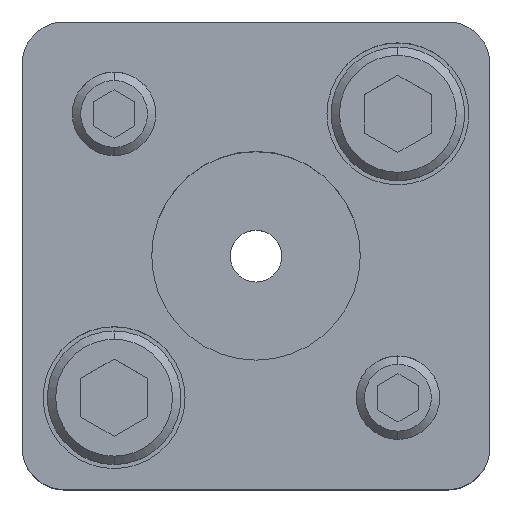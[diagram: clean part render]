
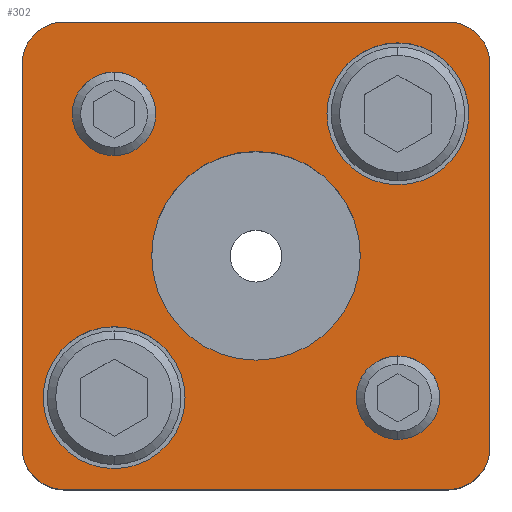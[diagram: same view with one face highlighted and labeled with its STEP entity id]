
A CAD part, top view. The second image highlights one B-rep face of the part: STEP entity #302.
In plain terms, the highlighted planar face has unit normal (0, 0, 1).
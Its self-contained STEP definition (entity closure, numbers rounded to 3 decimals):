
#165=FACE_BOUND('',#685,.T.);
#166=FACE_BOUND('',#686,.T.);
#167=FACE_BOUND('',#687,.T.);
#168=FACE_BOUND('',#688,.T.);
#169=FACE_BOUND('',#689,.T.);
#170=FACE_BOUND('',#690,.T.);
#211=PLANE('',#2792);
#302=ADVANCED_FACE('',(#165,#166,#167,#168,#169,#170),#211,.T.);
#685=EDGE_LOOP('',(#1147,#1148,#1149,#1150,#1151,#1152,#1153,#1154));
#686=EDGE_LOOP('',(#1155,#1156));
#687=EDGE_LOOP('',(#1157,#1158));
#688=EDGE_LOOP('',(#1159,#1160));
#689=EDGE_LOOP('',(#1161,#1162));
#690=EDGE_LOOP('',(#1163,#1164));
#877=CIRCLE('',#2768,8.5);
#879=CIRCLE('',#2771,8.5);
#881=CIRCLE('',#2775,8.5);
#883=CIRCLE('',#2778,8.5);
#885=CIRCLE('',#2782,5.);
#886=CIRCLE('',#2783,5.);
#887=CIRCLE('',#2784,5.);
#888=CIRCLE('',#2785,5.);
#889=CIRCLE('',#2786,5.);
#890=CIRCLE('',#2787,5.);
#891=CIRCLE('',#2788,5.);
#892=CIRCLE('',#2789,5.);
#893=CIRCLE('',#2790,12.5);
#894=CIRCLE('',#2791,12.5);
#1147=ORIENTED_EDGE('',*,*,#2031,.T.);
#1148=ORIENTED_EDGE('',*,*,#2032,.T.);
#1149=ORIENTED_EDGE('',*,*,#2033,.T.);
#1150=ORIENTED_EDGE('',*,*,#2034,.T.);
#1151=ORIENTED_EDGE('',*,*,#2035,.T.);
#1152=ORIENTED_EDGE('',*,*,#2036,.T.);
#1153=ORIENTED_EDGE('',*,*,#2037,.T.);
#1154=ORIENTED_EDGE('',*,*,#2038,.T.);
#1155=ORIENTED_EDGE('',*,*,#2039,.F.);
#1156=ORIENTED_EDGE('',*,*,#2040,.F.);
#1157=ORIENTED_EDGE('',*,*,#2041,.F.);
#1158=ORIENTED_EDGE('',*,*,#2042,.F.);
#1159=ORIENTED_EDGE('',*,*,#2029,.F.);
#1160=ORIENTED_EDGE('',*,*,#2025,.F.);
#1161=ORIENTED_EDGE('',*,*,#2023,.F.);
#1162=ORIENTED_EDGE('',*,*,#2019,.F.);
#1163=ORIENTED_EDGE('',*,*,#2043,.T.);
#1164=ORIENTED_EDGE('',*,*,#2044,.T.);
#1767=VERTEX_POINT('',#4005);
#1768=VERTEX_POINT('',#4006);
#1771=VERTEX_POINT('',#4018);
#1772=VERTEX_POINT('',#4019);
#1775=VERTEX_POINT('',#4031);
#1776=VERTEX_POINT('',#4032);
#1777=VERTEX_POINT('',#4034);
#1778=VERTEX_POINT('',#4036);
#1779=VERTEX_POINT('',#4038);
#1780=VERTEX_POINT('',#4040);
#1781=VERTEX_POINT('',#4042);
#1782=VERTEX_POINT('',#4044);
#1783=VERTEX_POINT('',#4047);
#1784=VERTEX_POINT('',#4048);
#1785=VERTEX_POINT('',#4051);
#1786=VERTEX_POINT('',#4052);
#1787=VERTEX_POINT('',#4055);
#1788=VERTEX_POINT('',#4056);
#2019=EDGE_CURVE('',#1767,#1768,#877,.T.);
#2023=EDGE_CURVE('',#1768,#1767,#879,.T.);
#2025=EDGE_CURVE('',#1771,#1772,#881,.T.);
#2029=EDGE_CURVE('',#1772,#1771,#883,.T.);
#2031=EDGE_CURVE('',#1775,#1776,#885,.T.);
#2032=EDGE_CURVE('',#1776,#1777,#2349,.T.);
#2033=EDGE_CURVE('',#1777,#1778,#886,.T.);
#2034=EDGE_CURVE('',#1778,#1779,#2350,.T.);
#2035=EDGE_CURVE('',#1779,#1780,#887,.T.);
#2036=EDGE_CURVE('',#1780,#1781,#2351,.T.);
#2037=EDGE_CURVE('',#1781,#1782,#888,.T.);
#2038=EDGE_CURVE('',#1782,#1775,#2352,.T.);
#2039=EDGE_CURVE('',#1783,#1784,#889,.T.);
#2040=EDGE_CURVE('',#1784,#1783,#890,.T.);
#2041=EDGE_CURVE('',#1785,#1786,#891,.T.);
#2042=EDGE_CURVE('',#1786,#1785,#892,.T.);
#2043=EDGE_CURVE('',#1787,#1788,#893,.T.);
#2044=EDGE_CURVE('',#1788,#1787,#894,.T.);
#2349=LINE('',#4033,#2545);
#2350=LINE('',#4037,#2546);
#2351=LINE('',#4041,#2547);
#2352=LINE('',#4045,#2548);
#2545=VECTOR('',#3215,1.);
#2546=VECTOR('',#3218,1.);
#2547=VECTOR('',#3221,1.);
#2548=VECTOR('',#3224,1.);
#2768=AXIS2_PLACEMENT_3D('',#4004,#3181,#3182);
#2771=AXIS2_PLACEMENT_3D('',#4013,#3189,#3190);
#2775=AXIS2_PLACEMENT_3D('',#4017,#3197,#3198);
#2778=AXIS2_PLACEMENT_3D('',#4026,#3205,#3206);
#2782=AXIS2_PLACEMENT_3D('',#4030,#3213,#3214);
#2783=AXIS2_PLACEMENT_3D('',#4035,#3216,#3217);
#2784=AXIS2_PLACEMENT_3D('',#4039,#3219,#3220);
#2785=AXIS2_PLACEMENT_3D('',#4043,#3222,#3223);
#2786=AXIS2_PLACEMENT_3D('',#4046,#3225,#3226);
#2787=AXIS2_PLACEMENT_3D('',#4049,#3227,#3228);
#2788=AXIS2_PLACEMENT_3D('',#4050,#3229,#3230);
#2789=AXIS2_PLACEMENT_3D('',#4053,#3231,#3232);
#2790=AXIS2_PLACEMENT_3D('',#4054,#3233,#3234);
#2791=AXIS2_PLACEMENT_3D('',#4057,#3235,#3236);
#2792=AXIS2_PLACEMENT_3D('',#4058,#3237,#3238);
#3181=DIRECTION('',(0.,0.,1.));
#3182=DIRECTION('',(-1.,0.,0.));
#3189=DIRECTION('',(0.,0.,1.));
#3190=DIRECTION('',(1.,0.,0.));
#3197=DIRECTION('',(0.,0.,1.));
#3198=DIRECTION('',(-1.,0.,0.));
#3205=DIRECTION('',(0.,0.,1.));
#3206=DIRECTION('',(1.,0.,0.));
#3213=DIRECTION('',(0.,0.,1.));
#3214=DIRECTION('',(-0.707,-0.707,0.));
#3215=DIRECTION('',(-1.,0.,0.));
#3216=DIRECTION('',(0.,0.,1.));
#3217=DIRECTION('',(0.707,-0.707,0.));
#3218=DIRECTION('',(0.,-1.,0.));
#3219=DIRECTION('',(0.,0.,1.));
#3220=DIRECTION('',(0.707,0.707,0.));
#3221=DIRECTION('',(1.,0.,0.));
#3222=DIRECTION('',(0.,0.,1.));
#3223=DIRECTION('',(-0.707,0.707,0.));
#3224=DIRECTION('',(0.,1.,0.));
#3225=DIRECTION('',(0.,0.,1.));
#3226=DIRECTION('',(1.,0.,0.));
#3227=DIRECTION('',(0.,0.,1.));
#3228=DIRECTION('',(-1.,0.,0.));
#3229=DIRECTION('',(0.,0.,1.));
#3230=DIRECTION('',(1.,0.,0.));
#3231=DIRECTION('',(0.,0.,1.));
#3232=DIRECTION('',(-1.,0.,0.));
#3233=DIRECTION('',(0.,0.,-1.));
#3234=DIRECTION('',(-1.,0.,0.));
#3235=DIRECTION('',(0.,0.,-1.));
#3236=DIRECTION('',(1.,0.,0.));
#3237=DIRECTION('',(0.,0.,1.));
#3238=DIRECTION('',(0.,-1.,0.));
#4004=CARTESIAN_POINT('',(17.,17.,35.));
#4005=CARTESIAN_POINT('',(17.,8.5,35.));
#4006=CARTESIAN_POINT('',(17.,25.5,35.));
#4013=CARTESIAN_POINT('',(17.,17.,35.));
#4017=CARTESIAN_POINT('',(-17.,-17.,35.));
#4018=CARTESIAN_POINT('',(-17.,-25.5,35.));
#4019=CARTESIAN_POINT('',(-17.,-8.5,35.));
#4026=CARTESIAN_POINT('',(-17.,-17.,35.));
#4030=CARTESIAN_POINT('',(23.,23.,35.));
#4031=CARTESIAN_POINT('',(28.,23.,35.));
#4032=CARTESIAN_POINT('',(23.,28.,35.));
#4033=CARTESIAN_POINT('',(23.,28.,35.));
#4034=CARTESIAN_POINT('',(-23.,28.,35.));
#4035=CARTESIAN_POINT('',(-23.,23.,35.));
#4036=CARTESIAN_POINT('',(-28.,23.,35.));
#4037=CARTESIAN_POINT('',(-28.,23.,35.));
#4038=CARTESIAN_POINT('',(-28.,-23.,35.));
#4039=CARTESIAN_POINT('',(-23.,-23.,35.));
#4040=CARTESIAN_POINT('',(-23.,-28.,35.));
#4041=CARTESIAN_POINT('',(23.,-28.,35.));
#4042=CARTESIAN_POINT('',(23.,-28.,35.));
#4043=CARTESIAN_POINT('',(23.,-23.,35.));
#4044=CARTESIAN_POINT('',(28.,-23.,35.));
#4045=CARTESIAN_POINT('',(28.,23.,35.));
#4046=CARTESIAN_POINT('',(-17.,17.,35.));
#4047=CARTESIAN_POINT('',(-17.,22.,35.));
#4048=CARTESIAN_POINT('',(-17.,12.,35.));
#4049=CARTESIAN_POINT('',(-17.,17.,35.));
#4050=CARTESIAN_POINT('',(17.,-17.,35.));
#4051=CARTESIAN_POINT('',(17.,-12.,35.));
#4052=CARTESIAN_POINT('',(17.,-22.,35.));
#4053=CARTESIAN_POINT('',(17.,-17.,35.));
#4054=CARTESIAN_POINT('',(0.,0.,35.));
#4055=CARTESIAN_POINT('',(0.,12.5,35.));
#4056=CARTESIAN_POINT('',(0.,-12.5,35.));
#4057=CARTESIAN_POINT('',(0.,0.,35.));
#4058=CARTESIAN_POINT('',(28.,23.,35.));
